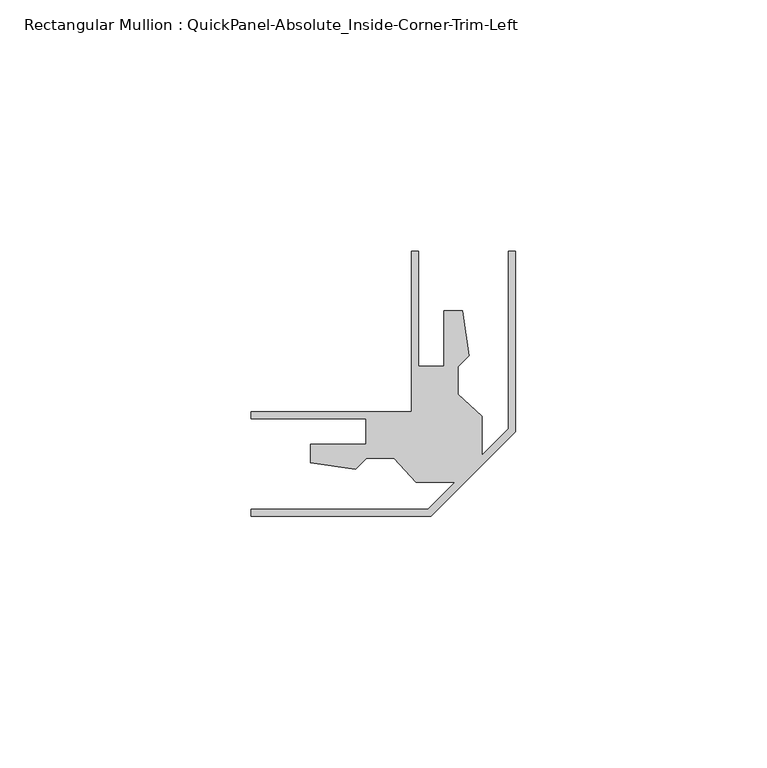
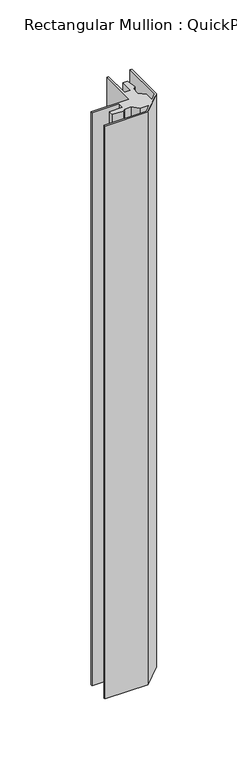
"""IFC4 building model written with IfcOpenShell, lengths in millimetres: member geometry, Rectangular Mullion : QuickPanel-Absolute_Inside-Corner-Trim-Left."""

import ifcopenshell
import ifcopenshell.guid

model = None  # the IFC model being written
_history = None  # IfcOwnerHistory: only IFC2X3 demands one
_inside = {}  # id of a spatial element -> (the spatial element, [elements in it])
_under = {}  # id of a project, library or spatial element -> (it, [spatial elements below it])
_declared = {}  # id of a project -> (the project, [libraries it declares])
_typed = {}  # id of a type object -> (the type object, [elements of that type])
_made_of = {}  # id of a material, layer set ... -> (it, [elements and type objects made of it])


def new_model(schema):
    """Start an empty IFC model of exactly this schema.

    Asked for "IFC4X3", IfcOpenShell would pick the latest addendum, in which some entities
    have other attributes; the version numbers below select the first issue.
    IFC2X3 requires an IfcOwnerHistory on every rooted entity: one is made here for all.
    """
    global model, _history
    if schema == "IFC4X3":
        model = ifcopenshell.file(schema_version=(4, 3, 0, 0))
    else:
        model = ifcopenshell.file(schema=schema)
    _inside.clear()
    _under.clear()
    _declared.clear()
    _typed.clear()
    _made_of.clear()
    _history = None
    if model.schema == "IFC2X3":
        org = make("IfcOrganization", Name="unknown")
        user = make(
            "IfcPersonAndOrganization",
            ThePerson=make("IfcPerson", FamilyName="unknown"),
            TheOrganization=org,
        )
        app = make(
            "IfcApplication",
            ApplicationDeveloper=org,
            Version="unknown",
            ApplicationFullName="unknown",
            ApplicationIdentifier="unknown",
        )
        _history = make(
            "IfcOwnerHistory",
            OwningUser=user,
            OwningApplication=app,
            ChangeAction="ADDED",
            CreationDate=0,
        )
    return model


def make(cls, **values):
    """One entity of the class cls with the attributes given. An attribute that is None is left unset."""
    return model.create_entity(
        cls, **{name: value for name, value in values.items() if value is not None}
    )


def rooted(cls, **values):
    """An entity with a GlobalId (a new one), such as an element, a storey or a relation."""
    return make(cls, GlobalId=ifcopenshell.guid.new(), OwnerHistory=_history, **values)


def si_unit(unit_type, name, prefix=None):
    """IfcSIUnit, for example si_unit("LENGTHUNIT", "METRE", prefix="MILLI")."""
    return make("IfcSIUnit", UnitType=unit_type, Prefix=prefix, Name=name)


def assignment(units):
    """IfcUnitAssignment: the units of a project."""
    return None if units is None else make("IfcUnitAssignment", Units=units)


def point(xyz):
    """IfcCartesianPoint."""
    return None if xyz is None else make("IfcCartesianPoint", Coordinates=xyz)


def direction(xyz):
    """IfcDirection."""
    return None if xyz is None else make("IfcDirection", DirectionRatios=xyz)


def frame(location, z_axis=None, x_axis=None):
    """IfcAxis2Placement3D, a coordinate frame: its origin and axes. An axis left out is left unset."""
    return make(
        "IfcAxis2Placement3D",
        Location=point(location),
        Axis=direction(z_axis),
        RefDirection=direction(x_axis),
    )


def origin():
    """The frame at (0, 0, 0) with its axes left unset."""
    return frame((0.0, 0.0, 0.0))


def place(relative_to, where):
    """IfcLocalPlacement: puts the frame where relative to a parent placement (None: the world)."""
    return make(
        "IfcLocalPlacement", PlacementRelTo=relative_to, RelativePlacement=where
    )


def context(
    kind, dimensions, precision=None, world=None, true_north=None, identifier=None
):
    """IfcGeometricRepresentationContext, for example the 3D "Model" context."""
    return make(
        "IfcGeometricRepresentationContext",
        ContextIdentifier=identifier,
        ContextType=kind,
        CoordinateSpaceDimension=dimensions,
        Precision=precision,
        WorldCoordinateSystem=world,
        TrueNorth=true_north,
    )


def project(units=None, contexts=None):
    """IfcProject with its units and contexts."""
    return rooted(
        "IfcProject",
        Name="project",
        RepresentationContexts=contexts,
        UnitsInContext=assignment(units),
    )


def spatial(cls, under=None, at=None, **own):
    """A site, building, storey or space (cls), placed at a placement, below another one or the project."""
    s = rooted(cls, ObjectPlacement=at, **own)
    if under is not None:
        _under.setdefault(under.id(), (under, []))[1].append(s)
    return s


def polyline(points):
    """IfcPolyline through the points."""
    return make("IfcPolyline", Points=[point(p) for p in points])


def outline(outer, holes=None, kind="AREA"):
    """IfcArbitraryClosedProfileDef: a profile drawn as a closed curve; with holes, ...WithVoids."""
    if holes is None:
        return make("IfcArbitraryClosedProfileDef", ProfileType=kind, OuterCurve=outer)
    return make(
        "IfcArbitraryProfileDefWithVoids",
        ProfileType=kind,
        OuterCurve=outer,
        InnerCurves=holes,
    )


def extrude(swept, where, along, depth):
    """IfcExtrudedAreaSolid: the profile swept, set in the frame where, extruded along a direction by depth."""
    return make(
        "IfcExtrudedAreaSolid",
        SweptArea=swept,
        Position=where,
        ExtrudedDirection=direction(along),
        Depth=depth,
    )


def shape(context_of_items, identifier, shape_type, items):
    """IfcShapeRepresentation: the items that make up one representation, for example the "Body"."""
    return make(
        "IfcShapeRepresentation",
        ContextOfItems=context_of_items,
        RepresentationIdentifier=identifier,
        RepresentationType=shape_type,
        Items=items,
    )


def source(mapping_origin, context_of_items, identifier, shape_type, items):
    """IfcRepresentationMap: a shape defined once, which mapped items show again and again."""
    return make(
        "IfcRepresentationMap",
        MappingOrigin=mapping_origin,
        MappedRepresentation=shape(context_of_items, identifier, shape_type, items),
    )


def transform(
    local_origin,
    x_axis=None,
    y_axis=None,
    z_axis=None,
    scale=None,
    scale2=None,
    scale3=None,
    uniform=True,
):
    """IfcCartesianTransformationOperator3D, or its non-uniform kind. x_axis, y_axis, z_axis: its Axis1, 2, 3."""
    if uniform:
        return make(
            "IfcCartesianTransformationOperator3D",
            Axis1=direction(x_axis),
            Axis2=direction(y_axis),
            LocalOrigin=point(local_origin),
            Scale=scale,
            Axis3=direction(z_axis),
        )
    return make(
        "IfcCartesianTransformationOperator3DnonUniform",
        Axis1=direction(x_axis),
        Axis2=direction(y_axis),
        LocalOrigin=point(local_origin),
        Scale=scale,
        Axis3=direction(z_axis),
        Scale2=scale2,
        Scale3=scale3,
    )


def mapped(mapping_source, mapping_target):
    """IfcMappedItem: shows the shape of a source again, moved by a transform."""
    return make(
        "IfcMappedItem", MappingSource=mapping_source, MappingTarget=mapping_target
    )


def made_of(thing, what):
    """Note that an element or type object is made of a material, layer set ...; save() writes the relation."""
    if what is not None:
        _made_of.setdefault(what.id(), (what, []))[1].append(thing)
    return thing


def element(
    cls,
    number,
    at=None,
    inside=None,
    cuts=None,
    type_object=None,
    material=None,
    context=None,
    identifier="Body",
    shape_type=None,
    held_by="IfcProductDefinitionShape",
    body=None,
    shapes=None,
    **own,
):
    """One element of the class cls, such as IfcWall. Its Tag is "e" and its number.

    at: its placement. inside: the storey or other place that contains it. cuts: it is an
    opening in that element (IfcRelVoidsElement). A single representation is given by context,
    identifier, shape_type and body (its items); several are given by shapes. held_by: the class
    of the entity that holds the representations. save() writes the other relations.
    """
    e = rooted(cls, Tag="e%d" % number, ObjectPlacement=at, **own)
    if body is not None:
        shapes = [shape(context, identifier, shape_type, body)]
    if shapes is not None:
        e.Representation = make(held_by, Representations=shapes)
    if inside is not None:
        _inside.setdefault(inside.id(), (inside, []))[1].append(e)
    if cuts is not None:
        rooted(
            "IfcRelVoidsElement", RelatingBuildingElement=cuts, RelatedOpeningElement=e
        )
    if type_object is not None:
        _typed.setdefault(type_object.id(), (type_object, []))[1].append(e)
    return made_of(e, material)


def aggregate(whole, parts):
    """IfcRelAggregates: a whole, such as a stair, and the parts it consists of."""
    return rooted("IfcRelAggregates", RelatingObject=whole, RelatedObjects=parts)


def save(model, path):
    """Write the relations noted so far, then the file.

    IfcRelAggregates (storeys below a building ...), IfcRelContainedInSpatialStructure (elements
    in a storey), IfcRelDefinesByType, IfcRelAssociatesMaterial and IfcRelDeclares: one each for
    every whole, place, type object, material and project.
    """
    for whole, parts in _under.values():
        aggregate(whole, parts)
    for where, things in _inside.values():
        rooted(
            "IfcRelContainedInSpatialStructure",
            RelatedElements=things,
            RelatingStructure=where,
        )
    for kind, things in _typed.values():
        rooted("IfcRelDefinesByType", RelatedObjects=things, RelatingType=kind)
    for what, things in _made_of.values():
        rooted("IfcRelAssociatesMaterial", RelatedObjects=things, RelatingMaterial=what)
    for by, libraries in _declared.values():
        rooted("IfcRelDeclares", RelatingContext=by, RelatedDefinitions=libraries)
    model.write(path)


def rectangular_mullion_quickpanel_absolute_inside_corner_trim_4e34491d(model_context):
    return source(origin(), model_context, "Body", "SweptSolid", [
        extrude(outline(polyline([(-52.7287461, -8.6243695), (-52.7287461, -7.2213769), (-17.4346146, -7.2213769), (-12.0632366, -1.8499989), (-19.8191321, -1.8499989), (-24.2846123, 2.9386423), (-29.7291112, 2.9386423), (-31.8901977, 0.7775558), (-40.8152941, 2.0318963), (-40.8152941, 5.7255034), (-29.8281143, 5.7255034), (-29.8281143, 10.7810495), (-52.7287461, 10.7810495), (-52.7287461, 12.1810781), (-20.7199597, 12.1810781), (-20.7199597, 44.1868662), (-19.319931, 44.1868662), (-19.319931, 21.2892327), (-14.2643849, 21.2892327), (-14.2643849, 32.2764126), (-10.5707778, 32.2764126), (-9.3164373, 23.3513162), (-11.4775238, 21.1902297), (-11.4775238, 15.7457308), (-6.6888826, 11.2802506), (-6.6888826, 3.5243551), (-1.4029926, 8.810245), (-1.4029926, 44.1868662), (0.0, 44.1868662), (0.0, 8.2333752), (-16.8577447, -8.6243695), (-52.7287461, -8.6243695)])), frame((0.0, 0.0, -506.7037574), z_axis=(0.0, 0.0, 1.0), x_axis=(1.0, 0.0, 0.0)), (0.0, 0.0, 1.0), 506.7037574),
    ])


if __name__ == "__main__":
    model = new_model("IFC4")
    model_context = context("Model", 3, world=origin())
    ifc_project = project(units=[si_unit("LENGTHUNIT", "METRE", prefix="MILLI")], contexts=[model_context])
    site = spatial("IfcSite", under=ifc_project)
    building = spatial("IfcBuilding", under=site)
    placement = place(None, origin())
    rectangular_mullion_quickpanel_absolute_inside_corner_trim_shape = rectangular_mullion_quickpanel_absolute_inside_corner_trim_4e34491d(model_context)
    element("IfcMember", 1, ObjectType="Rectangular Mullion : QuickPanel-Absolute_Inside-Corner-Trim-Left", at=placement, inside=building, context=model_context, shape_type="MappedRepresentation", body=[
        mapped(rectangular_mullion_quickpanel_absolute_inside_corner_trim_shape, transform((0.0, 0.0, 0.0), x_axis=(1.0, 0.0, 0.0), y_axis=(0.0, 1.0, 0.0), z_axis=(0.0, 0.0, 1.0))),
    ])
    save(model, "model.ifc")
